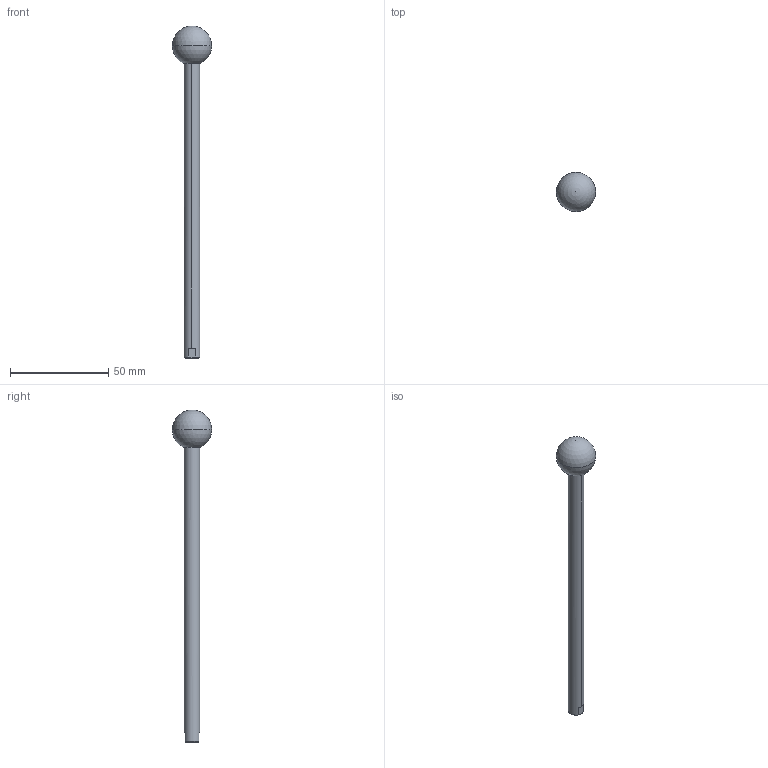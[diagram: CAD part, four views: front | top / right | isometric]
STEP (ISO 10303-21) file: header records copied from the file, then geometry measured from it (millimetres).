
FILE_DESCRIPTION (( 'STEP AP203' ), '1' );
FILE_NAME ('qlrcs-08150.STEP', '2021-10-21T08:20:26', ( '' ), ( '' ), 'SwSTEP 2.0', 'SolidWorks 2020', '' );
FILE_SCHEMA (( 'CONFIG_CONTROL_DESIGN' ));
Length unit declared in the file: millimetre
Products named in the file (1): qlrcs-08150
Bounding box: 19.97 x 19.97 x 169 mm (x, y, z)
Volume: 11581.6 mm3; surface area: 5113.8 mm2
Topology: 1 solids, 1 shells, 17 faces, 40 edges, 26 vertices
Faces by surface type: plane 7, cylinder 4, cone 4, sphere 2
Entity records: 563 total; most frequent: CARTESIAN_POINT 102, DIRECTION 88, ORIENTED_EDGE 72, AXIS2_PLACEMENT_3D 38, EDGE_CURVE 36, VERTEX_POINT 24, EDGE_LOOP 20, CIRCLE 20
